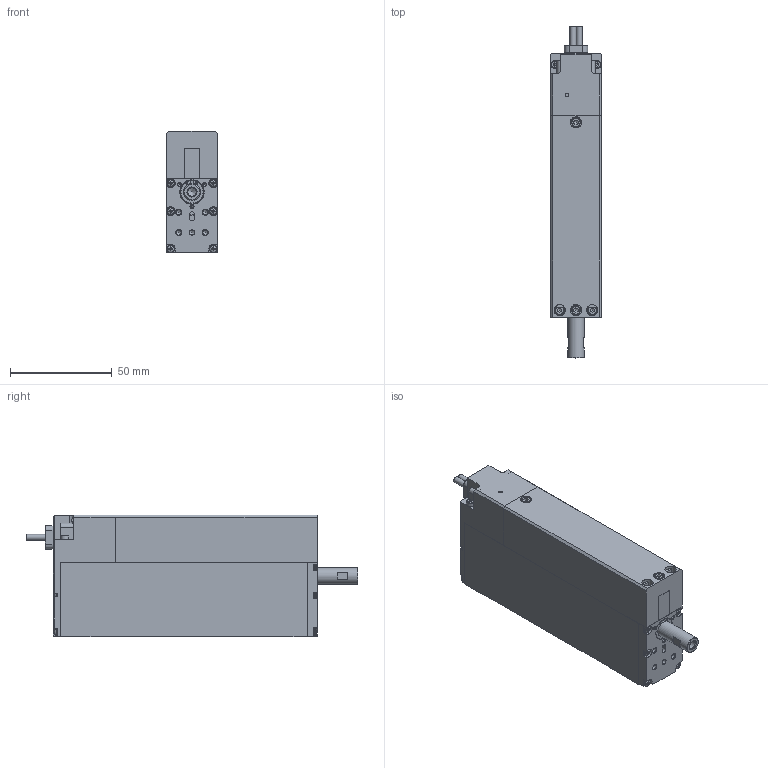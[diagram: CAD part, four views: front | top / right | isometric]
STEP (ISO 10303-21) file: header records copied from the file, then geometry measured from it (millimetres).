
FILE_DESCRIPTION((''),'2;1');
FILE_NAME('C:\smac-cad\WEB UPDATE SOLID MODELS\DEC2012\LCA25-025-1.stp','2012-12-05T10:27:24',('karl'),(''),'Autodesk Inventor 2008','Autodesk Inventor 2008','');
FILE_SCHEMA(('AUTOMOTIVE_DESIGN { 1 0 10303 214 1 1 1 1 }'));
Length unit declared in the file: millimetre
Products named in the file (11): LCA25-020-6; CABLE-G_B; HSG25-15-1; 11604-01_DX; MAGHSG25-25-1; 18553-01_AX; COVER25-STD; BS EN ISO 7045 H - Metric M2 x 3 - 4.8 - H; Part 1 Hexagon Socket Head Cap Screw - Metric M2.5 x 4; Part 1 Hexagon Socket Head Cap Screw - Metric M2 x 3; SHAFT25-FEMALE
Assembly tree (25 placements, depth 2):
  LCA25-020-6
    CABLE-G_B
    HSG25-15-1
    11604-01_DX
    MAGHSG25-25-1
    18553-01_AX
    COVER25-STD
    BS EN ISO 7045 H - Metric M2 x 3 - 4.8 - H  x10
    Part 1 Hexagon Socket Head Cap Screw - Metric M2.5 x 4  x4
    Part 1 Hexagon Socket Head Cap Screw - Metric M2 x 3  x4
    SHAFT25-FEMALE
Bounding box: 25 x 163.5 x 60 mm (x, y, z)
Volume: 193571 mm3; surface area: 47380.7 mm2
Topology: 25 solids, 25 shells, 787 faces, 1936 edges, 1242 vertices
Faces by surface type: plane 367, cone 190, cylinder 146, torus 66, sphere 10, bspline 8
Full cylindrical faces by diameter (mm): 1 x2, 1.567 x12, 1.783 x10, 2 x14, 2.013 x2, 2.4 x12, 2.459 x13, 2.5 x6, 2.9 x4, 3 x3, 3.8 x4, 4 x1, 4.134 x1, 4.4 x2, 4.5 x4, 5.5 x4, 8 x1, 10 x1, 11 x2, 11.1 x1, 11.5 x1, 12 x1, 14 x1
Entity records: 12467 total; most frequent: CARTESIAN_POINT 2466, DIRECTION 2069, ORIENTED_EDGE 1754, EDGE_CURVE 877, AXIS2_PLACEMENT_3D 777, EDGE_LOOP 640, VERTEX_POINT 630, VECTOR 515
